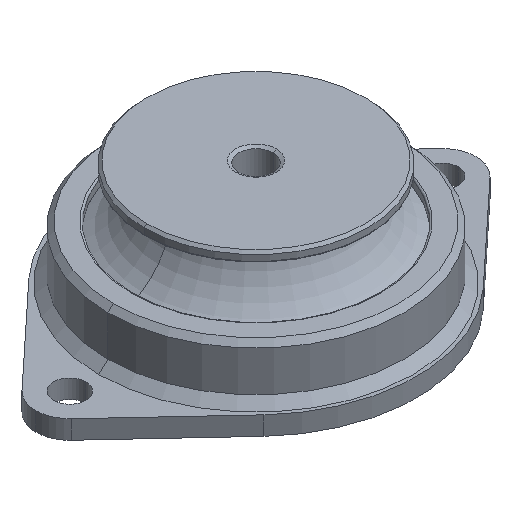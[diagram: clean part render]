
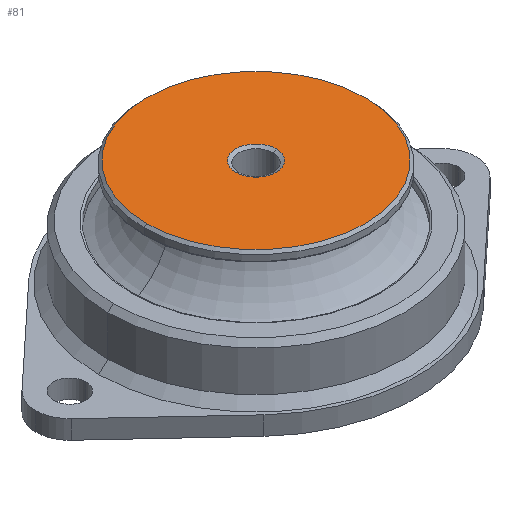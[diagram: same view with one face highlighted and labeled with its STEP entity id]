
A CAD part, isometric view. The second image highlights one B-rep face of the part: STEP entity #81.
In plain terms, the highlighted planar face has unit normal (0, 0, 1).
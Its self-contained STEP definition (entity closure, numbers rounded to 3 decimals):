
#81=ADVANCED_FACE('',(#171,#172),#173,.T.);
#171=FACE_OUTER_BOUND('',#328,.T.);
#172=FACE_BOUND('',#329,.T.);
#173=PLANE('',#330);
#328=EDGE_LOOP('',(#578,#579));
#329=EDGE_LOOP('',(#580,#581));
#330=AXIS2_PLACEMENT_3D('',#582,#583,#584);
#578=ORIENTED_EDGE('',*,*,#1082,.F.);
#579=ORIENTED_EDGE('',*,*,#1084,.F.);
#580=ORIENTED_EDGE('',*,*,#1085,.T.);
#581=ORIENTED_EDGE('',*,*,#1079,.T.);
#582=CARTESIAN_POINT('',(19.125,0.,37.0));
#583=DIRECTION('',(0.0,0.,1.0));
#584=DIRECTION('',(-1.0,0.0,0.0));
#1079=EDGE_CURVE('',#1299,#1297,#1300,.T.);
#1082=EDGE_CURVE('',#1302,#1304,#1305,.T.);
#1084=EDGE_CURVE('',#1304,#1302,#1307,.T.);
#1085=EDGE_CURVE('',#1297,#1299,#1308,.T.);
#1297=VERTEX_POINT('',#1587);
#1299=VERTEX_POINT('',#1590);
#1300=CIRCLE('',#1591,6.0);
#1302=VERTEX_POINT('',#1594);
#1304=VERTEX_POINT('',#1597);
#1305=CIRCLE('',#1598,32.25);
#1307=CIRCLE('',#1601,32.25);
#1308=CIRCLE('',#1602,6.0);
#1587=CARTESIAN_POINT('',(6.0,0.,37.0));
#1590=CARTESIAN_POINT('',(-6.0,0.,37.0));
#1591=AXIS2_PLACEMENT_3D('',#1959,#1960,#1961);
#1594=CARTESIAN_POINT('',(32.25,0.,37.0));
#1597=CARTESIAN_POINT('',(-32.25,0.,37.0));
#1598=AXIS2_PLACEMENT_3D('',#1964,#1965,#1966);
#1601=AXIS2_PLACEMENT_3D('',#1968,#1969,#1970);
#1602=AXIS2_PLACEMENT_3D('',#1971,#1972,#1973);
#1959=CARTESIAN_POINT('',(0.0,0.,37.0));
#1960=DIRECTION('',(0.0,0.,-1.0));
#1961=DIRECTION('',(1.0,0.0,0.0));
#1964=CARTESIAN_POINT('',(0.0,0.,37.0));
#1965=DIRECTION('',(0.0,0.,-1.0));
#1966=DIRECTION('',(1.0,0.0,0.0));
#1968=CARTESIAN_POINT('',(0.0,0.,37.0));
#1969=DIRECTION('',(0.0,0.,-1.0));
#1970=DIRECTION('',(1.0,0.0,0.0));
#1971=CARTESIAN_POINT('',(0.0,0.,37.0));
#1972=DIRECTION('',(0.0,0.,-1.0));
#1973=DIRECTION('',(1.0,0.0,0.0));
